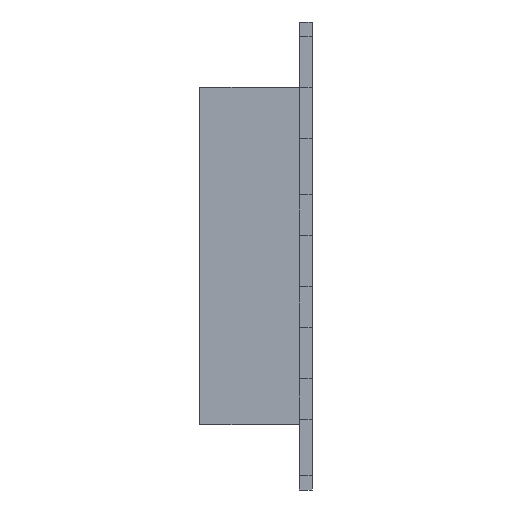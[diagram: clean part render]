
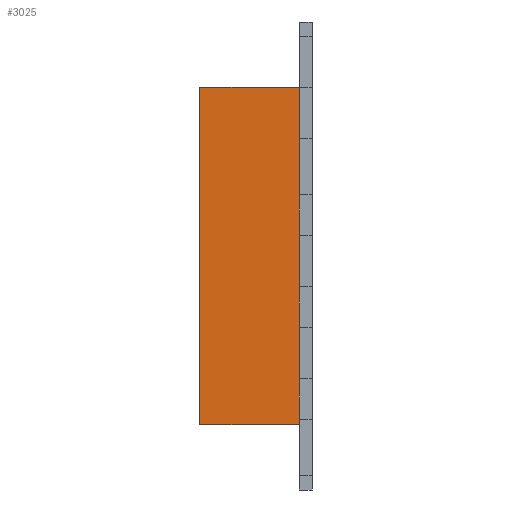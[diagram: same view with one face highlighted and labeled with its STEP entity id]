
A CAD part, left-side view. The second image highlights one B-rep face of the part: STEP entity #3025.
In plain terms, the highlighted planar face has unit normal (-1, 0, 0).
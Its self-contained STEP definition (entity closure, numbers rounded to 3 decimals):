
#267 = VECTOR ( 'NONE', #6448, 1000. ) ;
#463 = LINE ( 'NONE', #1734, #2066 ) ;
#1156 = CARTESIAN_POINT ( 'NONE',  ( -18.1, 2.5, -23. ) ) ;
#1327 = VERTEX_POINT ( 'NONE', #5160 ) ;
#1685 = EDGE_CURVE ( 'NONE', #4981, #6177, #7196, .T. ) ;
#1734 = CARTESIAN_POINT ( 'NONE',  ( -18.1, 0., 43. ) ) ;
#1920 = LINE ( 'NONE', #4619, #4965 ) ;
#1939 = CARTESIAN_POINT ( 'NONE',  ( -18.1, 2.5, 0. ) ) ;
#1979 = VERTEX_POINT ( 'NONE', #5504 ) ;
#2066 = VECTOR ( 'NONE', #2360, 1000. ) ;
#2182 = EDGE_CURVE ( 'NONE', #1327, #1979, #1920, .T. ) ;
#2207 = ORIENTED_EDGE ( 'NONE', *, *, #1685, .T. ) ;
#2360 = DIRECTION ( 'NONE',  ( 0., 1., 0. ) ) ;
#2518 = EDGE_CURVE ( 'NONE', #4981, #1327, #7329, .T. ) ;
#2904 = ORIENTED_EDGE ( 'NONE', *, *, #2182, .F. ) ;
#2992 = VECTOR ( 'NONE', #4610, 1000. ) ;
#3005 = DIRECTION ( 'NONE',  ( -1., 0., 0. ) ) ;
#3025 = ADVANCED_FACE ( 'NONE', ( #5701 ), #3744, .T. ) ;
#3581 = VERTEX_POINT ( 'NONE', #6253 ) ;
#3744 = PLANE ( 'NONE',  #8378 ) ;
#4002 = DIRECTION ( 'NONE',  ( 0., 0., 1. ) ) ;
#4192 = EDGE_CURVE ( 'NONE', #8629, #3581, #6990, .T. ) ;
#4323 = CARTESIAN_POINT ( 'NONE',  ( -18.1, 2.5, -23. ) ) ;
#4472 = EDGE_CURVE ( 'NONE', #3581, #1979, #463, .T. ) ;
#4610 = DIRECTION ( 'NONE',  ( 0., 1., 0. ) ) ;
#4619 = CARTESIAN_POINT ( 'NONE',  ( -18.1, 22., 0. ) ) ;
#4638 = DIRECTION ( 'NONE',  ( 0., 0., -1. ) ) ;
#4686 = LINE ( 'NONE', #1939, #7401 ) ;
#4719 = ORIENTED_EDGE ( 'NONE', *, *, #4192, .T. ) ;
#4965 = VECTOR ( 'NONE', #4002, 1000. ) ;
#4981 = VERTEX_POINT ( 'NONE', #5476 ) ;
#5158 = DIRECTION ( 'NONE',  ( 0., 0., 1. ) ) ;
#5160 = CARTESIAN_POINT ( 'NONE',  ( -18.1, 22., -23. ) ) ;
#5242 = VECTOR ( 'NONE', #8353, 1000. ) ;
#5476 = CARTESIAN_POINT ( 'NONE',  ( -18.1, 2.5, -23. ) ) ;
#5504 = CARTESIAN_POINT ( 'NONE',  ( -18.1, 22., 43. ) ) ;
#5624 = CARTESIAN_POINT ( 'NONE',  ( -18.1, 2.5, 31. ) ) ;
#5638 = ORIENTED_EDGE ( 'NONE', *, *, #4472, .T. ) ;
#5701 = FACE_OUTER_BOUND ( 'NONE', #8741, .T. ) ;
#5746 = EDGE_CURVE ( 'NONE', #8629, #6177, #4686, .T. ) ;
#6002 = ORIENTED_EDGE ( 'NONE', *, *, #5746, .F. ) ;
#6122 = ORIENTED_EDGE ( 'NONE', *, *, #2518, .F. ) ;
#6177 = VERTEX_POINT ( 'NONE', #7603 ) ;
#6253 = CARTESIAN_POINT ( 'NONE',  ( -18.1, 2.5, 43. ) ) ;
#6448 = DIRECTION ( 'NONE',  ( 0., 0., 1. ) ) ;
#6990 = LINE ( 'NONE', #4323, #5242 ) ;
#7196 = LINE ( 'NONE', #1156, #267 ) ;
#7329 = LINE ( 'NONE', #8697, #2992 ) ;
#7401 = VECTOR ( 'NONE', #4638, 1000. ) ;
#7603 = CARTESIAN_POINT ( 'NONE',  ( -18.1, 2.5, 21. ) ) ;
#8353 = DIRECTION ( 'NONE',  ( 0., 0., 1. ) ) ;
#8378 = AXIS2_PLACEMENT_3D ( 'NONE', #8530, #3005, #5158 ) ;
#8530 = CARTESIAN_POINT ( 'NONE',  ( -18.1, 0., 0. ) ) ;
#8629 = VERTEX_POINT ( 'NONE', #5624 ) ;
#8697 = CARTESIAN_POINT ( 'NONE',  ( -18.1, 0., -23. ) ) ;
#8741 = EDGE_LOOP ( 'NONE', ( #6122, #2207, #6002, #4719, #5638, #2904 ) ) ;
